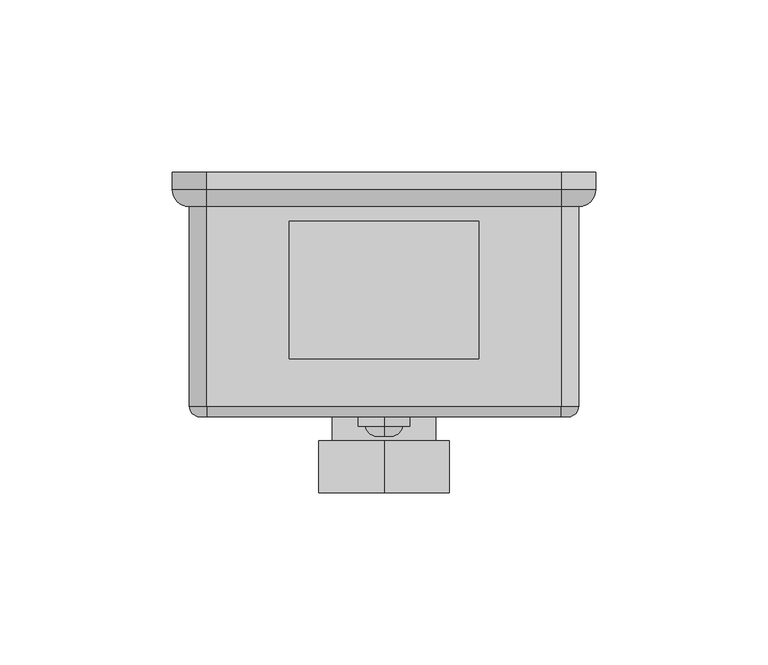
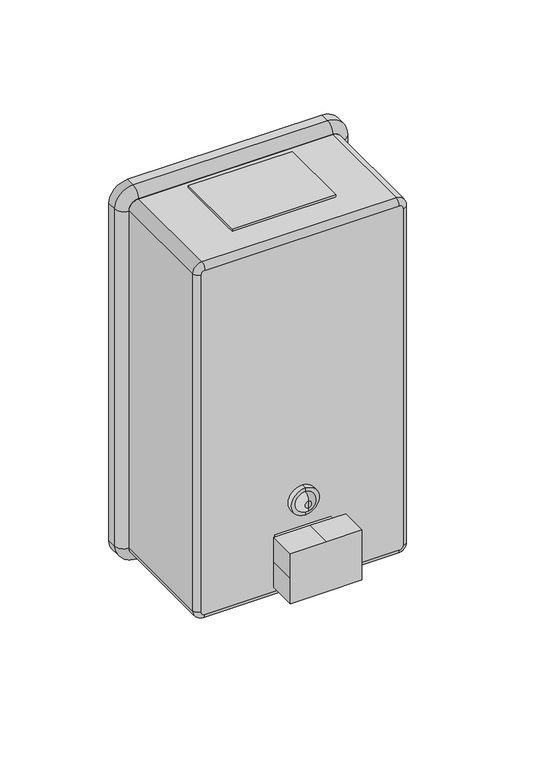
"""IFC4 building model written with IfcOpenShell, lengths in millimetres: proxy geometry, Soap Dispenser_Metlam_Rectangular_Vertical_Button Pump : 123w x 93d x 209h (ML605BS)."""

import ifcopenshell
import ifcopenshell.guid

model = None  # the IFC model being written
_history = None  # IfcOwnerHistory: only IFC2X3 demands one
_inside = {}  # id of a spatial element -> (the spatial element, [elements in it])
_under = {}  # id of a project, library or spatial element -> (it, [spatial elements below it])
_declared = {}  # id of a project -> (the project, [libraries it declares])
_typed = {}  # id of a type object -> (the type object, [elements of that type])
_made_of = {}  # id of a material, layer set ... -> (it, [elements and type objects made of it])


def new_model(schema):
    """Start an empty IFC model of exactly this schema.

    Asked for "IFC4X3", IfcOpenShell would pick the latest addendum, in which some entities
    have other attributes; the version numbers below select the first issue.
    IFC2X3 requires an IfcOwnerHistory on every rooted entity: one is made here for all.
    """
    global model, _history
    if schema == "IFC4X3":
        model = ifcopenshell.file(schema_version=(4, 3, 0, 0))
    else:
        model = ifcopenshell.file(schema=schema)
    _inside.clear()
    _under.clear()
    _declared.clear()
    _typed.clear()
    _made_of.clear()
    _history = None
    if model.schema == "IFC2X3":
        org = make("IfcOrganization", Name="unknown")
        user = make(
            "IfcPersonAndOrganization",
            ThePerson=make("IfcPerson", FamilyName="unknown"),
            TheOrganization=org,
        )
        app = make(
            "IfcApplication",
            ApplicationDeveloper=org,
            Version="unknown",
            ApplicationFullName="unknown",
            ApplicationIdentifier="unknown",
        )
        _history = make(
            "IfcOwnerHistory",
            OwningUser=user,
            OwningApplication=app,
            ChangeAction="ADDED",
            CreationDate=0,
        )
    return model


def make(cls, **values):
    """One entity of the class cls with the attributes given. An attribute that is None is left unset."""
    return model.create_entity(
        cls, **{name: value for name, value in values.items() if value is not None}
    )


def rooted(cls, **values):
    """An entity with a GlobalId (a new one), such as an element, a storey or a relation."""
    return make(cls, GlobalId=ifcopenshell.guid.new(), OwnerHistory=_history, **values)


def si_unit(unit_type, name, prefix=None):
    """IfcSIUnit, for example si_unit("LENGTHUNIT", "METRE", prefix="MILLI")."""
    return make("IfcSIUnit", UnitType=unit_type, Prefix=prefix, Name=name)


def assignment(units):
    """IfcUnitAssignment: the units of a project."""
    return None if units is None else make("IfcUnitAssignment", Units=units)


def point(xyz):
    """IfcCartesianPoint."""
    return None if xyz is None else make("IfcCartesianPoint", Coordinates=xyz)


def direction(xyz):
    """IfcDirection."""
    return None if xyz is None else make("IfcDirection", DirectionRatios=xyz)


def frame(location, z_axis=None, x_axis=None):
    """IfcAxis2Placement3D, a coordinate frame: its origin and axes. An axis left out is left unset."""
    return make(
        "IfcAxis2Placement3D",
        Location=point(location),
        Axis=direction(z_axis),
        RefDirection=direction(x_axis),
    )


def frame_2d(location, x_axis=None):
    """IfcAxis2Placement2D, a coordinate frame in the plane: its origin and x axis."""
    return make(
        "IfcAxis2Placement2D", Location=point(location), RefDirection=direction(x_axis)
    )


def origin():
    """The frame at (0, 0, 0) with its axes left unset."""
    return frame((0.0, 0.0, 0.0))


def place(relative_to, where):
    """IfcLocalPlacement: puts the frame where relative to a parent placement (None: the world)."""
    return make(
        "IfcLocalPlacement", PlacementRelTo=relative_to, RelativePlacement=where
    )


def context(
    kind, dimensions, precision=None, world=None, true_north=None, identifier=None
):
    """IfcGeometricRepresentationContext, for example the 3D "Model" context."""
    return make(
        "IfcGeometricRepresentationContext",
        ContextIdentifier=identifier,
        ContextType=kind,
        CoordinateSpaceDimension=dimensions,
        Precision=precision,
        WorldCoordinateSystem=world,
        TrueNorth=true_north,
    )


def project(units=None, contexts=None):
    """IfcProject with its units and contexts."""
    return rooted(
        "IfcProject",
        Name="project",
        RepresentationContexts=contexts,
        UnitsInContext=assignment(units),
    )


def spatial(cls, under=None, at=None, **own):
    """A site, building, storey or space (cls), placed at a placement, below another one or the project."""
    s = rooted(cls, ObjectPlacement=at, **own)
    if under is not None:
        _under.setdefault(under.id(), (under, []))[1].append(s)
    return s


def polyline(points):
    """IfcPolyline through the points."""
    return make("IfcPolyline", Points=[point(p) for p in points])


def circle_curve(where, radius):
    """IfcCircle in the frame where."""
    return make("IfcCircle", Position=where, Radius=radius)


def ellipse_curve(where, semi_axis1, semi_axis2):
    """IfcEllipse in the frame where."""
    return make(
        "IfcEllipse", Position=where, SemiAxis1=semi_axis1, SemiAxis2=semi_axis2
    )


def trimmed(basis, trim1, trim2, sense, master):
    """IfcTrimmedCurve: the piece of a basis curve between two trims."""
    return make(
        "IfcTrimmedCurve",
        BasisCurve=basis,
        Trim1=trim1,
        Trim2=trim2,
        SenseAgreement=sense,
        MasterRepresentation=master,
    )


def segment(curve, same_sense, transition):
    """IfcCompositeCurveSegment."""
    return make(
        "IfcCompositeCurveSegment",
        Transition=transition,
        SameSense=same_sense,
        ParentCurve=curve,
    )


def composite_curve(segments, self_intersect=None):
    """IfcCompositeCurve: segments joined end to end."""
    return make("IfcCompositeCurve", Segments=segments, SelfIntersect=self_intersect)


def outline(outer, holes=None, kind="AREA"):
    """IfcArbitraryClosedProfileDef: a profile drawn as a closed curve; with holes, ...WithVoids."""
    if holes is None:
        return make("IfcArbitraryClosedProfileDef", ProfileType=kind, OuterCurve=outer)
    return make(
        "IfcArbitraryProfileDefWithVoids",
        ProfileType=kind,
        OuterCurve=outer,
        InnerCurves=holes,
    )


def extrude(swept, where, along, depth):
    """IfcExtrudedAreaSolid: the profile swept, set in the frame where, extruded along a direction by depth."""
    return make(
        "IfcExtrudedAreaSolid",
        SweptArea=swept,
        Position=where,
        ExtrudedDirection=direction(along),
        Depth=depth,
    )


def shape(context_of_items, identifier, shape_type, items):
    """IfcShapeRepresentation: the items that make up one representation, for example the "Body"."""
    return make(
        "IfcShapeRepresentation",
        ContextOfItems=context_of_items,
        RepresentationIdentifier=identifier,
        RepresentationType=shape_type,
        Items=items,
    )


def source(mapping_origin, context_of_items, identifier, shape_type, items):
    """IfcRepresentationMap: a shape defined once, which mapped items show again and again."""
    return make(
        "IfcRepresentationMap",
        MappingOrigin=mapping_origin,
        MappedRepresentation=shape(context_of_items, identifier, shape_type, items),
    )


def transform(
    local_origin,
    x_axis=None,
    y_axis=None,
    z_axis=None,
    scale=None,
    scale2=None,
    scale3=None,
    uniform=True,
):
    """IfcCartesianTransformationOperator3D, or its non-uniform kind. x_axis, y_axis, z_axis: its Axis1, 2, 3."""
    if uniform:
        return make(
            "IfcCartesianTransformationOperator3D",
            Axis1=direction(x_axis),
            Axis2=direction(y_axis),
            LocalOrigin=point(local_origin),
            Scale=scale,
            Axis3=direction(z_axis),
        )
    return make(
        "IfcCartesianTransformationOperator3DnonUniform",
        Axis1=direction(x_axis),
        Axis2=direction(y_axis),
        LocalOrigin=point(local_origin),
        Scale=scale,
        Axis3=direction(z_axis),
        Scale2=scale2,
        Scale3=scale3,
    )


def mapped(mapping_source, mapping_target):
    """IfcMappedItem: shows the shape of a source again, moved by a transform."""
    return make(
        "IfcMappedItem", MappingSource=mapping_source, MappingTarget=mapping_target
    )


def made_of(thing, what):
    """Note that an element or type object is made of a material, layer set ...; save() writes the relation."""
    if what is not None:
        _made_of.setdefault(what.id(), (what, []))[1].append(thing)
    return thing


def element(
    cls,
    number,
    at=None,
    inside=None,
    cuts=None,
    type_object=None,
    material=None,
    context=None,
    identifier="Body",
    shape_type=None,
    held_by="IfcProductDefinitionShape",
    body=None,
    shapes=None,
    **own,
):
    """One element of the class cls, such as IfcWall. Its Tag is "e" and its number.

    at: its placement. inside: the storey or other place that contains it. cuts: it is an
    opening in that element (IfcRelVoidsElement). A single representation is given by context,
    identifier, shape_type and body (its items); several are given by shapes. held_by: the class
    of the entity that holds the representations. save() writes the other relations.
    """
    e = rooted(cls, Tag="e%d" % number, ObjectPlacement=at, **own)
    if body is not None:
        shapes = [shape(context, identifier, shape_type, body)]
    if shapes is not None:
        e.Representation = make(held_by, Representations=shapes)
    if inside is not None:
        _inside.setdefault(inside.id(), (inside, []))[1].append(e)
    if cuts is not None:
        rooted(
            "IfcRelVoidsElement", RelatingBuildingElement=cuts, RelatedOpeningElement=e
        )
    if type_object is not None:
        _typed.setdefault(type_object.id(), (type_object, []))[1].append(e)
    return made_of(e, material)


def aggregate(whole, parts):
    """IfcRelAggregates: a whole, such as a stair, and the parts it consists of."""
    return rooted("IfcRelAggregates", RelatingObject=whole, RelatedObjects=parts)


def save(model, path):
    """Write the relations noted so far, then the file.

    IfcRelAggregates (storeys below a building ...), IfcRelContainedInSpatialStructure (elements
    in a storey), IfcRelDefinesByType, IfcRelAssociatesMaterial and IfcRelDeclares: one each for
    every whole, place, type object, material and project.
    """
    for whole, parts in _under.values():
        aggregate(whole, parts)
    for where, things in _inside.values():
        rooted(
            "IfcRelContainedInSpatialStructure",
            RelatedElements=things,
            RelatingStructure=where,
        )
    for kind, things in _typed.values():
        rooted("IfcRelDefinesByType", RelatedObjects=things, RelatingType=kind)
    for what, things in _made_of.values():
        rooted("IfcRelAssociatesMaterial", RelatedObjects=things, RelatingMaterial=what)
    for by, libraries in _declared.values():
        rooted("IfcRelDeclares", RelatingContext=by, RelatedDefinitions=libraries)
    model.write(path)


def plane_surface(at):
    """IfcPlane: the flat surface through the origin of the frame at, square to its z axis."""
    return make("IfcPlane", Position=at)


def cylinder_surface(at, radius):
    """IfcCylindricalSurface: all points at the distance radius from the z axis of the frame at."""
    return make("IfcCylindricalSurface", Position=at, Radius=radius)


def revolved_surface(curve, axis_point, axis_direction):
    """IfcSurfaceOfRevolution: the curve turned about the line through axis_point along axis_direction."""
    return make(
        "IfcSurfaceOfRevolution",
        SweptCurve=make("IfcArbitraryOpenProfileDef", ProfileType="CURVE", Curve=curve),
        AxisPosition=make("IfcAxis1Placement", Location=point(axis_point), Axis=direction(axis_direction)),
    )


def advanced_brep(points, edges, surfaces, faces):
    """IfcAdvancedBrep: a solid bounded by faces that lie on surfaces and meet in shared edges.

    An edge is (start, end): straight between two places in points (the first is 0);
    or (start, end, curve); or (start, end, curve, False) where it runs against its curve.
    A face is (place in surfaces, loops), or (place, loops, False) where it looks against
    its surface's normal. A loop lists edges by number (the first is 1), with a minus sign
    where the edge is run from its end to its start. The first loop is the outer one.
    """
    corners = [point(p) for p in points]
    vertices = [make("IfcVertexPoint", VertexGeometry=c) for c in corners]
    made = []
    for start, end, *more in edges:
        made.append(
            make(
                "IfcEdgeCurve",
                EdgeStart=vertices[start],
                EdgeEnd=vertices[end],
                EdgeGeometry=more[0] if more else make("IfcPolyline", Points=[corners[start], corners[end]]),
                SameSense=more[1] if len(more) > 1 else True,
            )
        )
    hull = []
    for where, loops, *sense in faces:
        bounds = []
        for j, loop in enumerate(loops):
            ring = [make("IfcOrientedEdge", EdgeElement=made[abs(k) - 1], Orientation=k > 0) for k in loop]
            bounds.append(
                make(
                    "IfcFaceOuterBound" if j == 0 else "IfcFaceBound",
                    Bound=make("IfcEdgeLoop", EdgeList=ring),
                    Orientation=True,
                )
            )
        hull.append(make("IfcAdvancedFace", Bounds=bounds, FaceSurface=surfaces[where], SameSense=sense[0] if sense else True))
    return make("IfcAdvancedBrep", Outer=make("IfcClosedShell", CfsFaces=hull))


def specialty_equipment_37063abb(model_context):
    return source(origin(), model_context, "Body", "SolidModel", [
        advanced_brep(
        [(0.0, -73.6770093, 1347.5), (0.0, -73.6770093, 1362.5), (0.0, -71.0, 1362.5), (0.0, -71.0, 1347.5), (0.0, -73.6770093, 1349.5417196), (0.0, -73.6770093, 1360.4582804), (0.0, -76.68104, 1353.0762788), (0.0, -76.68104, 1356.9237212), (0.0, -76.68104, 1355.0), (0.0, -71.0, 1355.0)],
        [
            (0, 1, circle_curve(frame((0.0, -73.6770093, 1355.0), z_axis=(0.0, 1.0, 0.0), x_axis=(0.0, 0.0, 1.0)), 7.5)),
            (1, 2),
            (2, 3, circle_curve(frame((0.0, -71.0, 1355.0), z_axis=(0.0, -1.0, 0.0), x_axis=(0.0, 0.0, 1.0)), 7.5)),
            (3, 0),
            (1, 0, circle_curve(frame((0.0, -73.6770093, 1355.0), z_axis=(0.0, 1.0, 0.0), x_axis=(0.0, 0.0, 1.0)), 7.5)),
            (3, 2, circle_curve(frame((0.0, -71.0, 1355.0), z_axis=(0.0, -1.0, 0.0), x_axis=(0.0, 0.0, 1.0)), 7.5)),
            (4, 5, circle_curve(frame((0.0, -73.6770093, 1355.0), z_axis=(0.0, 1.0, 0.0), x_axis=(0.0, 0.0, 1.0)), 5.4582804)),
            (5, 1),
            (0, 4),
            (5, 4, circle_curve(frame((0.0, -73.6770093, 1355.0), z_axis=(0.0, 1.0, 0.0), x_axis=(0.0, 0.0, 1.0)), 5.4582804)),
            (6, 7, circle_curve(frame((0.0, -76.68104, 1355.0), z_axis=(0.0, 1.0, 0.0), x_axis=(0.0, 0.0, 1.0)), 1.9237212)),
            (7, 5, circle_curve(frame((0.0, -73.0996336, 1356.9237212), z_axis=(-1.0, 0.0, 0.0), x_axis=(0.0, 1.0, 0.0)), 3.5814064)),
            (4, 6, circle_curve(frame((0.0, -73.0996336, 1353.0762788), z_axis=(-1.0, 0.0, 0.0), x_axis=(0.0, 1.0, 0.0)), 3.5814064)),
            (7, 6, circle_curve(frame((0.0, -76.68104, 1355.0), z_axis=(0.0, 1.0, 0.0), x_axis=(0.0, 0.0, 1.0)), 1.9237212)),
            (8, 7),
            (6, 8),
            (2, 9),
            (9, 3),
        ],
        [
            cylinder_surface(frame((0.0, -76.1933717, 1355.0), z_axis=(0.0, -1.0, 0.0), x_axis=(0.0, 0.0, 1.0)), 7.5),
            plane_surface(frame((0.0, -73.6770093, 1355.0), z_axis=(0.0, -1.0, 0.0), x_axis=(0.0, 0.0, 1.0))),
            revolved_surface(trimmed(ellipse_curve(frame((0.0, -73.0996336, 1356.9237212), z_axis=(1.0, 0.0, 0.0), x_axis=(0.0, 1.0, 0.0)), 3.5814064, 3.5814064), [point((0.0, -73.6770093, 1360.4582804))], [point((0.0, -76.68104, 1356.9237212))], True, "CARTESIAN"), (0.0, -76.1933717, 1355.0), (0.0, -1.0, 0.0)),
            plane_surface(frame((0.0, -76.68104, 1355.0), z_axis=(0.0, -1.0, 0.0), x_axis=(0.0, 0.0, 1.0))),
            plane_surface(frame((0.0, -71.0, 1355.0), z_axis=(0.0, 1.0, 0.0), x_axis=(0.0, 0.0, 1.0))),
        ],
        [
            (0, [[1, 2, 3, 4]]),
            (0, [[5, -4, 6, -2]]),
            (1, [[7, 8, -1, 9]]),
            (1, [[10, -9, -5, -8]]),
            (2, [[11, 12, -7, 13]]),
            (2, [[14, -13, -10, -12]]),
            (3, [[15, -11, 16]]),
            (3, [[-16, -14, -15]]),
            (4, [[-3, 17, 18]]),
            (4, [[-6, -18, -17]]),
        ],
    ),
        advanced_brep(
        [(53.5, -71.0, 1499.0), (51.5, -71.0, 1501.0), (-51.5, -71.0, 1501.0), (-53.5, -71.0, 1499.0), (-53.5, -71.0, 1310.0), (-51.5, -71.0, 1308.0), (51.5, -71.0, 1308.0), (53.5, -71.0, 1310.0), (51.5, -61.0, 1501.0), (53.5, -61.0, 1499.0), (53.5, -61.0, 1310.0), (51.5, -61.0, 1308.0), (-51.5, -61.0, 1308.0), (-53.5, -61.0, 1310.0), (-53.5, -61.0, 1499.0), (-51.5, -61.0, 1501.0), (56.5, -10.0, 1499.0), (56.5, -68.0, 1499.0), (56.5, -68.0, 1310.0), (56.5, -10.0, 1310.0), (51.5, -10.0, 1305.0), (51.5, -68.0, 1305.0), (-51.5, -68.0, 1305.0), (-51.5, -10.0, 1305.0), (-56.5, -10.0, 1310.0), (-56.5, -68.0, 1310.0), (-56.5, -68.0, 1499.0), (-56.5, -10.0, 1499.0), (-51.5, -10.0, 1504.0), (-51.5, -68.0, 1504.0), (51.5, -68.0, 1504.0), (51.5, -10.0, 1504.0), (-51.5, -10.0, 1501.0), (-53.5, -10.0, 1499.0), (-53.5, -10.0, 1310.0), (-51.5, -10.0, 1308.0), (51.5, -10.0, 1308.0), (53.5, -10.0, 1310.0), (53.5, -10.0, 1499.0), (51.5, -10.0, 1501.0)],
        [
            (0, 1, circle_curve(frame((51.5, -71.0, 1499.0), z_axis=(0.0, -1.0, 0.0), x_axis=(0.0, 0.0, 1.0)), 2.0)),
            (1, 2),
            (2, 3, circle_curve(frame((-51.5, -71.0, 1499.0), z_axis=(0.0, -1.0, 0.0), x_axis=(-1.0, 0.0, 0.0)), 2.0)),
            (3, 4),
            (4, 5, circle_curve(frame((-51.5, -71.0, 1310.0), z_axis=(0.0, -1.0, 0.0), x_axis=(0.0, 0.0, -1.0)), 2.0)),
            (5, 6),
            (6, 7, circle_curve(frame((51.5, -71.0, 1310.0), z_axis=(0.0, -1.0, 0.0), x_axis=(1.0, 0.0, 0.0)), 2.0)),
            (7, 0),
            (8, 9, circle_curve(frame((51.5, -61.0, 1499.0), z_axis=(0.0, 1.0, 0.0), x_axis=(0.0, 0.0, 1.0)), 2.0)),
            (9, 10),
            (10, 11, circle_curve(frame((51.5, -61.0, 1310.0), z_axis=(0.0, 1.0, 0.0), x_axis=(1.0, 0.0, 0.0)), 2.0)),
            (11, 12),
            (12, 13, circle_curve(frame((-51.5, -61.0, 1310.0), z_axis=(0.0, 1.0, 0.0), x_axis=(0.0, 0.0, -1.0)), 2.0)),
            (13, 14),
            (14, 15, circle_curve(frame((-51.5, -61.0, 1499.0), z_axis=(0.0, 1.0, 0.0), x_axis=(-1.0, 0.0, 0.0)), 2.0)),
            (15, 8),
            (16, 17),
            (17, 18),
            (18, 19),
            (19, 16),
            (20, 21),
            (21, 22),
            (22, 23),
            (23, 20),
            (24, 25),
            (25, 26),
            (26, 27),
            (27, 24),
            (28, 29),
            (29, 30),
            (30, 31),
            (31, 28),
            (16, 31, circle_curve(frame((51.5, -10.0, 1499.0), z_axis=(0.0, -1.0, 0.0), x_axis=(0.0, 0.0, 1.0)), 5.0)),
            (30, 17, circle_curve(frame((51.5, -68.0, 1499.0), z_axis=(0.0, 1.0, 0.0), x_axis=(0.0, 0.0, 1.0)), 5.0)),
            (18, 21, circle_curve(frame((51.5, -68.0, 1310.0), z_axis=(0.0, 1.0, 0.0), x_axis=(1.0, 0.0, 0.0)), 5.0)),
            (20, 19, circle_curve(frame((51.5, -10.0, 1310.0), z_axis=(0.0, -1.0, 0.0), x_axis=(1.0, 0.0, 0.0)), 5.0)),
            (22, 25, circle_curve(frame((-51.5, -68.0, 1310.0), z_axis=(0.0, 1.0, 0.0), x_axis=(0.0, 0.0, -1.0)), 5.0)),
            (24, 23, circle_curve(frame((-51.5, -10.0, 1310.0), z_axis=(0.0, -1.0, 0.0), x_axis=(0.0, 0.0, -1.0)), 5.0)),
            (26, 29, circle_curve(frame((-51.5, -68.0, 1499.0), z_axis=(0.0, 1.0, 0.0), x_axis=(-1.0, 0.0, 0.0)), 5.0)),
            (28, 27, circle_curve(frame((-51.5, -10.0, 1499.0), z_axis=(0.0, -1.0, 0.0), x_axis=(-1.0, 0.0, 0.0)), 5.0)),
            (32, 33, circle_curve(frame((-51.5, -10.0, 1499.0), z_axis=(0.0, -1.0, 0.0), x_axis=(-1.0, 0.0, 0.0)), 2.0)),
            (33, 34),
            (34, 35, circle_curve(frame((-51.5, -10.0, 1310.0), z_axis=(0.0, -1.0, 0.0), x_axis=(0.0, 0.0, -1.0)), 2.0)),
            (35, 36),
            (36, 37, circle_curve(frame((51.5, -10.0, 1310.0), z_axis=(0.0, -1.0, 0.0), x_axis=(1.0, 0.0, 0.0)), 2.0)),
            (37, 38),
            (38, 39, circle_curve(frame((51.5, -10.0, 1499.0), z_axis=(0.0, -1.0, 0.0), x_axis=(0.0, 0.0, 1.0)), 2.0)),
            (39, 32),
            (38, 9),
            (8, 39),
            (30, 1, circle_curve(frame((51.5, -68.0, 1501.0), z_axis=(1.0, 0.0, 0.0), x_axis=(0.0, 0.0, 1.0)), 3.0)),
            (0, 17, circle_curve(frame((53.5, -68.0, 1499.0), z_axis=(0.0, 0.0, 1.0), x_axis=(1.0, 0.0, 0.0)), 3.0)),
            (37, 10),
            (7, 18, circle_curve(frame((53.5, -68.0, 1310.0), z_axis=(0.0, 0.0, 1.0), x_axis=(1.0, 0.0, 0.0)), 3.0)),
            (36, 11),
            (6, 21, circle_curve(frame((51.5, -68.0, 1308.0), z_axis=(1.0, 0.0, 0.0), x_axis=(0.0, 0.0, -1.0)), 3.0)),
            (35, 12),
            (5, 22, circle_curve(frame((-51.5, -68.0, 1308.0), z_axis=(1.0, 0.0, 0.0), x_axis=(0.0, 0.0, -1.0)), 3.0)),
            (34, 13),
            (4, 25, circle_curve(frame((-53.5, -68.0, 1310.0), z_axis=(0.0, 0.0, -1.0), x_axis=(-1.0, 0.0, 0.0)), 3.0)),
            (33, 14),
            (3, 26, circle_curve(frame((-53.5, -68.0, 1499.0), z_axis=(0.0, 0.0, -1.0), x_axis=(-1.0, 0.0, 0.0)), 3.0)),
            (32, 15),
            (2, 29, circle_curve(frame((-51.5, -68.0, 1501.0), z_axis=(-1.0, 0.0, 0.0), x_axis=(0.0, 0.0, 1.0)), 3.0)),
        ],
        [
            plane_surface(frame((-49.5, -71.0, 1499.0), z_axis=(0.0, -1.0, 0.0), x_axis=(0.0, 0.0, 1.0))),
            plane_surface(frame((-49.5, -61.0, 1499.0), z_axis=(0.0, 1.0, 0.0), x_axis=(0.0, 0.0, -1.0))),
            plane_surface(frame((56.5, -68.0, 1499.0), z_axis=(1.0, 0.0, 0.0), x_axis=(0.0, 0.0, -1.0))),
            plane_surface(frame((51.5, -68.0, 1305.0), z_axis=(0.0, 0.0, -1.0), x_axis=(-1.0, 0.0, 0.0))),
            plane_surface(frame((-56.5, -68.0, 1310.0), z_axis=(-1.0, 0.0, 0.0), x_axis=(0.0, 0.0, 1.0))),
            plane_surface(frame((-51.5, -68.0, 1504.0), z_axis=(0.0, 0.0, 1.0), x_axis=(1.0, 0.0, 0.0))),
            cylinder_surface(frame((51.5, -10.0, 1499.0), z_axis=(0.0, 1.0, 0.0), x_axis=(0.0, 0.0, 1.0)), 5.0),
            cylinder_surface(frame((51.5, -10.0, 1310.0), z_axis=(0.0, 1.0, 0.0), x_axis=(1.0, 0.0, 0.0)), 5.0),
            cylinder_surface(frame((-51.5, -10.0, 1310.0), z_axis=(0.0, 1.0, 0.0), x_axis=(0.0, 0.0, -1.0)), 5.0),
            cylinder_surface(frame((-51.5, -10.0, 1499.0), z_axis=(0.0, 1.0, 0.0), x_axis=(-1.0, 0.0, 0.0)), 5.0),
            plane_surface(frame((-51.5, -10.0, 1499.0), z_axis=(0.0, 1.0, 0.0), x_axis=(-1.0, 0.0, 0.0))),
            revolved_surface(polyline([(51.5, -10.0, 1501.0), (51.5, -61.0, 1501.0)]), (51.5, -10.0, 1499.0), (0.0, 1.0, 0.0)),
            revolved_surface(trimmed(ellipse_curve(frame((51.5, -68.0, 1501.0), z_axis=(-1.0, 0.0, 0.0), x_axis=(0.0, 0.0, 1.0)), 3.0, 3.0), [point((51.5, -71.0, 1501.0))], [point((51.5, -68.0, 1504.0))], True, "CARTESIAN"), (51.5, -10.0, 1499.0), (0.0, 1.0, 0.0)),
            plane_surface(frame((53.5, -10.0, 1499.0), z_axis=(-1.0, 0.0, 0.0), x_axis=(0.0, 0.0, -1.0))),
            cylinder_surface(frame((53.5, -68.0, 1499.0), z_axis=(0.0, 0.0, 1.0), x_axis=(1.0, 0.0, 0.0)), 3.0),
            revolved_surface(polyline([(53.5, -10.0, 1310.0), (53.5, -61.0, 1310.0)]), (51.5, -10.0, 1310.0), (0.0, 1.0, 0.0)),
            revolved_surface(trimmed(ellipse_curve(frame((53.5, -68.0, 1310.0), z_axis=(0.0, 0.0, 1.0), x_axis=(1.0, 0.0, 0.0)), 3.0, 3.0), [point((53.5, -71.0, 1310.0))], [point((56.5, -68.0, 1310.0))], True, "CARTESIAN"), (51.5, -10.0, 1310.0), (0.0, 1.0, 0.0)),
            plane_surface(frame((51.5, -10.0, 1308.0), z_axis=(0.0, 0.0, 1.0), x_axis=(-1.0, 0.0, 0.0))),
            cylinder_surface(frame((51.5, -68.0, 1308.0), z_axis=(1.0, 0.0, 0.0), x_axis=(0.0, 0.0, -1.0)), 3.0),
            revolved_surface(polyline([(-51.5, -10.0, 1308.0), (-51.5, -61.0, 1308.0)]), (-51.5, -10.0, 1310.0), (0.0, 1.0, 0.0)),
            revolved_surface(trimmed(ellipse_curve(frame((-51.5, -68.0, 1308.0), z_axis=(1.0, 0.0, 0.0), x_axis=(0.0, 0.0, -1.0)), 3.0, 3.0), [point((-51.5, -71.0, 1308.0))], [point((-51.5, -68.0, 1305.0))], True, "CARTESIAN"), (-51.5, -10.0, 1310.0), (0.0, 1.0, 0.0)),
            plane_surface(frame((-53.5, -10.0, 1310.0), z_axis=(1.0, 0.0, 0.0), x_axis=(0.0, 0.0, 1.0))),
            cylinder_surface(frame((-53.5, -68.0, 1310.0), z_axis=(0.0, 0.0, -1.0), x_axis=(-1.0, 0.0, 0.0)), 3.0),
            revolved_surface(polyline([(-53.5, -10.0, 1499.0), (-53.5, -61.0, 1499.0)]), (-51.5, -10.0, 1499.0), (0.0, 1.0, 0.0)),
            revolved_surface(trimmed(ellipse_curve(frame((-53.5, -68.0, 1499.0), z_axis=(0.0, 0.0, -1.0), x_axis=(-1.0, 0.0, 0.0)), 3.0, 3.0), [point((-53.5, -71.0, 1499.0))], [point((-56.5, -68.0, 1499.0))], True, "CARTESIAN"), (-51.5, -10.0, 1499.0), (0.0, 1.0, 0.0)),
            plane_surface(frame((-51.5, -10.0, 1501.0), z_axis=(0.0, 0.0, -1.0), x_axis=(1.0, 0.0, 0.0))),
            cylinder_surface(frame((-51.5, -68.0, 1501.0), z_axis=(-1.0, 0.0, 0.0), x_axis=(0.0, 0.0, 1.0)), 3.0),
        ],
        [
            (0, [[1, 2, 3, 4, 5, 6, 7, 8]]),
            (1, [[9, 10, 11, 12, 13, 14, 15, 16]]),
            (2, [[17, 18, 19, 20]]),
            (3, [[21, 22, 23, 24]]),
            (4, [[25, 26, 27, 28]]),
            (5, [[29, 30, 31, 32]]),
            (6, [[-17, 33, -31, 34]]),
            (7, [[-19, 35, -21, 36]]),
            (8, [[-23, 37, -25, 38]]),
            (9, [[-27, 39, -29, 40]]),
            (10, [[-20, -36, -24, -38, -28, -40, -32, -33], [41, 42, 43, 44, 45, 46, 47, 48]]),
            (11, [[-47, 49, -9, 50]]),
            (12, [[-34, 51, -1, 52]]),
            (13, [[-46, 53, -10, -49]]),
            (14, [[-18, -52, -8, 54]]),
            (15, [[-45, 55, -11, -53]]),
            (16, [[-35, -54, -7, 56]]),
            (17, [[-44, 57, -12, -55]]),
            (18, [[-22, -56, -6, 58]]),
            (19, [[-43, 59, -13, -57]]),
            (20, [[-37, -58, -5, 60]]),
            (21, [[-42, 61, -14, -59]]),
            (22, [[-26, -60, -4, 62]]),
            (23, [[-41, 63, -15, -61]]),
            (24, [[-39, -62, -3, 64]]),
            (25, [[-48, -50, -16, -63]]),
            (26, [[-30, -64, -2, -51]]),
        ],
    ),
        extrude(outline(composite_curve([segment(trimmed(circle_curve(frame_2d((0.0, -85.5)), 2.0), [point((2.0, -85.5))], [point((-2.0, -85.5))], False, "CARTESIAN"), True, "CONTINUOUS"), segment(trimmed(circle_curve(frame_2d((0.0, -85.5)), 2.0), [point((-2.0, -85.5))], [point((2.0, -85.5))], False, "CARTESIAN"), True, "CONTINUOUS")], self_intersect=False)), frame((0.0, 0.0, 1313.0), z_axis=(0.0, 0.0, 1.0), x_axis=(1.0, 0.0, 0.0)), (0.0, 0.0, 1.0), 3.0),
        extrude(outline(polyline([(15.0, -78.0), (-15.0, -78.0), (-15.0, -71.0), (15.0, -71.0), (15.0, -78.0)])), frame((0.0, 0.0, 1320.0), z_axis=(0.0, 0.0, 1.0), x_axis=(1.0, 0.0, 0.0)), (0.0, 0.0, 1.0), 20.0),
        extrude(outline(polyline([(1344.0, 0.0), (1344.0, -19.0), (1330.0, -19.0), (1316.0, -19.0), (1316.0, 0.0), (1316.0, 19.0), (1330.0, 19.0), (1344.0, 19.0), (1344.0, 0.0)])), frame((0.0, -93.0, 0.0), z_axis=(0.0, 1.0, 0.0), x_axis=(0.0, 0.0, 1.0)), (0.0, 0.0, 1.0), 15.0),
        extrude(outline(composite_curve([segment(trimmed(circle_curve(frame_2d((1499.0, 51.5)), 5.0), [point((1499.0, 56.5))], [point((1504.0, 51.5))], False, "CARTESIAN"), True, "CONTINUOUS"), segment(polyline([(1504.0, 51.5), (1504.0, -51.5)]), True, "CONTINUOUS"), segment(trimmed(circle_curve(frame_2d((1499.0, -51.5)), 5.0), [point((1504.0, -51.5))], [point((1499.0, -56.5))], False, "CARTESIAN"), True, "CONTINUOUS"), segment(polyline([(1499.0, -56.5), (1310.0, -56.5)]), True, "CONTINUOUS"), segment(trimmed(circle_curve(frame_2d((1310.0, -51.5)), 5.0), [point((1310.0, -56.5))], [point((1305.0, -51.5))], False, "CARTESIAN"), True, "CONTINUOUS"), segment(polyline([(1305.0, -51.5), (1305.0, 51.5)]), True, "CONTINUOUS"), segment(trimmed(circle_curve(frame_2d((1310.0, 51.5)), 5.0), [point((1305.0, 51.5))], [point((1310.0, 56.5))], False, "CARTESIAN"), True, "CONTINUOUS"), segment(polyline([(1310.0, 56.5), (1499.0, 56.5)]), True, "CONTINUOUS")], self_intersect=False)), frame((0.0, -10.0, 0.0), z_axis=(0.0, 1.0, 0.0), x_axis=(0.0, 0.0, 1.0)), (0.0, 0.0, 1.0), 10.0),
        advanced_brep(
        [(61.5, 0.0, 1499.0), (61.5, -5.0, 1499.0), (61.5, -5.0, 1310.0), (61.5, 0.0, 1310.0), (56.5, -10.0, 1499.0), (56.5, 0.0, 1499.0), (56.5, 0.0, 1310.0), (56.5, -10.0, 1310.0), (51.5, 0.0, 1300.0), (51.5, -5.0, 1300.0), (-51.5, -5.0, 1300.0), (-51.5, 0.0, 1300.0), (51.5, -10.0, 1305.0), (51.5, 0.0, 1305.0), (-51.5, 0.0, 1305.0), (-51.5, -10.0, 1305.0), (-61.5, 0.0, 1310.0), (-61.5, -5.0, 1310.0), (-61.5, -5.0, 1499.0), (-61.5, 0.0, 1499.0), (-56.5, -10.0, 1310.0), (-56.5, 0.0, 1310.0), (-56.5, 0.0, 1499.0), (-56.5, -10.0, 1499.0), (-51.5, 0.0, 1509.0), (-51.5, -5.0, 1509.0), (51.5, -5.0, 1509.0), (51.5, 0.0, 1509.0), (-51.5, -10.0, 1504.0), (-51.5, 0.0, 1504.0), (51.5, 0.0, 1504.0), (51.5, -10.0, 1504.0)],
        [
            (0, 1),
            (1, 2),
            (2, 3),
            (3, 0),
            (4, 5),
            (5, 6),
            (6, 7),
            (7, 4),
            (1, 4, circle_curve(frame((56.5, -5.0, 1499.0), z_axis=(0.0, 0.0, -1.0), x_axis=(1.0, 0.0, 0.0)), 5.0)),
            (7, 2, circle_curve(frame((56.5, -5.0, 1310.0), z_axis=(0.0, 0.0, 1.0), x_axis=(1.0, 0.0, 0.0)), 5.0)),
            (8, 9),
            (9, 10),
            (10, 11),
            (11, 8),
            (12, 13),
            (13, 14),
            (14, 15),
            (15, 12),
            (9, 12, circle_curve(frame((51.5, -5.0, 1305.0), z_axis=(-1.0, 0.0, 0.0), x_axis=(0.0, 0.0, -1.0)), 5.0)),
            (15, 10, circle_curve(frame((-51.5, -5.0, 1305.0), z_axis=(1.0, 0.0, 0.0), x_axis=(0.0, 0.0, -1.0)), 5.0)),
            (16, 17),
            (17, 18),
            (18, 19),
            (19, 16),
            (20, 21),
            (21, 22),
            (22, 23),
            (23, 20),
            (17, 20, circle_curve(frame((-56.5, -5.0, 1310.0), z_axis=(0.0, 0.0, 1.0), x_axis=(-1.0, 0.0, 0.0)), 5.0)),
            (23, 18, circle_curve(frame((-56.5, -5.0, 1499.0), z_axis=(0.0, 0.0, -1.0), x_axis=(-1.0, 0.0, 0.0)), 5.0)),
            (24, 25),
            (25, 26),
            (26, 27),
            (27, 24),
            (28, 29),
            (29, 30),
            (30, 31),
            (31, 28),
            (25, 28, circle_curve(frame((-51.5, -5.0, 1504.0), z_axis=(1.0, 0.0, 0.0), x_axis=(0.0, 0.0, 1.0)), 5.0)),
            (31, 26, circle_curve(frame((51.5, -5.0, 1504.0), z_axis=(-1.0, 0.0, 0.0), x_axis=(0.0, 0.0, 1.0)), 5.0)),
            (0, 27, circle_curve(frame((51.5, 0.0, 1499.0), z_axis=(0.0, -1.0, 0.0), x_axis=(0.0, 0.0, 1.0)), 10.0)),
            (26, 1, circle_curve(frame((51.5, -5.0, 1499.0), z_axis=(0.0, 1.0, 0.0), x_axis=(0.0, 0.0, 1.0)), 10.0)),
            (4, 31, circle_curve(frame((51.5, -10.0, 1499.0), z_axis=(0.0, -1.0, 0.0), x_axis=(0.0, 0.0, 1.0)), 5.0)),
            (30, 5, circle_curve(frame((51.5, 0.0, 1499.0), z_axis=(0.0, 1.0, 0.0), x_axis=(0.0, 0.0, 1.0)), 5.0)),
            (8, 3, circle_curve(frame((51.5, 0.0, 1310.0), z_axis=(0.0, -1.0, 0.0), x_axis=(1.0, 0.0, 0.0)), 10.0)),
            (2, 9, circle_curve(frame((51.5, -5.0, 1310.0), z_axis=(0.0, 1.0, 0.0), x_axis=(1.0, 0.0, 0.0)), 10.0)),
            (12, 7, circle_curve(frame((51.5, -10.0, 1310.0), z_axis=(0.0, -1.0, 0.0), x_axis=(1.0, 0.0, 0.0)), 5.0)),
            (6, 13, circle_curve(frame((51.5, 0.0, 1310.0), z_axis=(0.0, 1.0, 0.0), x_axis=(1.0, 0.0, 0.0)), 5.0)),
            (16, 11, circle_curve(frame((-51.5, 0.0, 1310.0), z_axis=(0.0, -1.0, 0.0), x_axis=(0.0, 0.0, -1.0)), 10.0)),
            (10, 17, circle_curve(frame((-51.5, -5.0, 1310.0), z_axis=(0.0, 1.0, 0.0), x_axis=(0.0, 0.0, -1.0)), 10.0)),
            (20, 15, circle_curve(frame((-51.5, -10.0, 1310.0), z_axis=(0.0, -1.0, 0.0), x_axis=(0.0, 0.0, -1.0)), 5.0)),
            (14, 21, circle_curve(frame((-51.5, 0.0, 1310.0), z_axis=(0.0, 1.0, 0.0), x_axis=(0.0, 0.0, -1.0)), 5.0)),
            (24, 19, circle_curve(frame((-51.5, 0.0, 1499.0), z_axis=(0.0, -1.0, 0.0), x_axis=(-1.0, 0.0, 0.0)), 10.0)),
            (18, 25, circle_curve(frame((-51.5, -5.0, 1499.0), z_axis=(0.0, 1.0, 0.0), x_axis=(-1.0, 0.0, 0.0)), 10.0)),
            (29, 22, circle_curve(frame((-51.5, 0.0, 1499.0), z_axis=(0.0, -1.0, 0.0), x_axis=(-1.0, 0.0, 0.0)), 5.0)),
            (28, 23, circle_curve(frame((-51.5, -10.0, 1499.0), z_axis=(0.0, -1.0, 0.0), x_axis=(-1.0, 0.0, 0.0)), 5.0)),
        ],
        [
            plane_surface(frame((61.5, -5.0, 1499.0), z_axis=(1.0, 0.0, 0.0), x_axis=(0.0, 0.0, -1.0))),
            plane_surface(frame((56.5, 0.0, 1499.0), z_axis=(-1.0, 0.0, 0.0), x_axis=(0.0, 0.0, -1.0))),
            cylinder_surface(frame((56.5, -5.0, 1499.0), z_axis=(0.0, 0.0, 1.0), x_axis=(1.0, 0.0, 0.0)), 5.0),
            plane_surface(frame((51.5, -5.0, 1300.0), z_axis=(0.0, 0.0, -1.0), x_axis=(-1.0, 0.0, 0.0))),
            plane_surface(frame((51.5, 0.0, 1305.0), z_axis=(0.0, 0.0, 1.0), x_axis=(-1.0, 0.0, 0.0))),
            cylinder_surface(frame((51.5, -5.0, 1305.0), z_axis=(1.0, 0.0, 0.0), x_axis=(0.0, 0.0, -1.0)), 5.0),
            plane_surface(frame((-61.5, -5.0, 1310.0), z_axis=(-1.0, 0.0, 0.0), x_axis=(0.0, 0.0, 1.0))),
            plane_surface(frame((-56.5, 0.0, 1310.0), z_axis=(1.0, 0.0, 0.0), x_axis=(0.0, 0.0, 1.0))),
            cylinder_surface(frame((-56.5, -5.0, 1310.0), z_axis=(0.0, 0.0, -1.0), x_axis=(-1.0, 0.0, 0.0)), 5.0),
            plane_surface(frame((-51.5, -5.0, 1509.0), z_axis=(0.0, 0.0, 1.0), x_axis=(1.0, 0.0, 0.0))),
            plane_surface(frame((-51.5, 0.0, 1504.0), z_axis=(0.0, 0.0, -1.0), x_axis=(1.0, 0.0, 0.0))),
            cylinder_surface(frame((-51.5, -5.0, 1504.0), z_axis=(-1.0, 0.0, 0.0), x_axis=(0.0, 0.0, 1.0)), 5.0),
            cylinder_surface(frame((51.5, 0.0, 1499.0), z_axis=(0.0, 1.0, 0.0), x_axis=(0.0, 0.0, 1.0)), 10.0),
            revolved_surface(polyline([(51.5, 0.0, 1504.0), (51.5, -10.0, 1504.0)]), (51.5, 0.0, 1499.0), (0.0, 1.0, 0.0)),
            revolved_surface(trimmed(ellipse_curve(frame((51.5, -5.0, 1504.0), z_axis=(-1.0, 0.0, 0.0), x_axis=(0.0, 0.0, 1.0)), 5.0, 5.0), [point((51.5, -10.0, 1504.0))], [point((51.5, -5.0, 1509.0))], True, "CARTESIAN"), (51.5, 0.0, 1499.0), (0.0, 1.0, 0.0)),
            cylinder_surface(frame((51.5, 0.0, 1310.0), z_axis=(0.0, 1.0, 0.0), x_axis=(1.0, 0.0, 0.0)), 10.0),
            revolved_surface(polyline([(56.5, 0.0, 1310.0), (56.5, -10.0, 1310.0)]), (51.5, 0.0, 1310.0), (0.0, 1.0, 0.0)),
            revolved_surface(trimmed(ellipse_curve(frame((56.5, -5.0, 1310.0), z_axis=(0.0, 0.0, 1.0), x_axis=(1.0, 0.0, 0.0)), 5.0, 5.0), [point((56.5, -10.0, 1310.0))], [point((61.5, -5.0, 1310.0))], True, "CARTESIAN"), (51.5, 0.0, 1310.0), (0.0, 1.0, 0.0)),
            cylinder_surface(frame((-51.5, 0.0, 1310.0), z_axis=(0.0, 1.0, 0.0), x_axis=(0.0, 0.0, -1.0)), 10.0),
            revolved_surface(polyline([(-51.5, 0.0, 1305.0), (-51.5, -10.0, 1305.0)]), (-51.5, 0.0, 1310.0), (0.0, 1.0, 0.0)),
            revolved_surface(trimmed(ellipse_curve(frame((-51.5, -5.0, 1305.0), z_axis=(1.0, 0.0, 0.0), x_axis=(0.0, 0.0, -1.0)), 5.0, 5.0), [point((-51.5, -10.0, 1305.0))], [point((-51.5, -5.0, 1300.0))], True, "CARTESIAN"), (-51.5, 0.0, 1310.0), (0.0, 1.0, 0.0)),
            cylinder_surface(frame((-51.5, 0.0, 1499.0), z_axis=(0.0, 1.0, 0.0), x_axis=(-1.0, 0.0, 0.0)), 10.0),
            plane_surface(frame((-51.5, 0.0, 1499.0), z_axis=(0.0, 1.0, 0.0), x_axis=(-1.0, 0.0, 0.0))),
            revolved_surface(polyline([(-56.5, 0.0, 1499.0), (-56.5, -10.0, 1499.0)]), (-51.5, 0.0, 1499.0), (0.0, 1.0, 0.0)),
            revolved_surface(trimmed(ellipse_curve(frame((-56.5, -5.0, 1499.0), z_axis=(0.0, 0.0, -1.0), x_axis=(-1.0, 0.0, 0.0)), 5.0, 5.0), [point((-56.5, -10.0, 1499.0))], [point((-61.5, -5.0, 1499.0))], True, "CARTESIAN"), (-51.5, 0.0, 1499.0), (0.0, 1.0, 0.0)),
        ],
        [
            (0, [[1, 2, 3, 4]]),
            (1, [[5, 6, 7, 8]]),
            (2, [[9, -8, 10, -2]]),
            (3, [[11, 12, 13, 14]]),
            (4, [[15, 16, 17, 18]]),
            (5, [[19, -18, 20, -12]]),
            (6, [[21, 22, 23, 24]]),
            (7, [[25, 26, 27, 28]]),
            (8, [[29, -28, 30, -22]]),
            (9, [[31, 32, 33, 34]]),
            (10, [[35, 36, 37, 38]]),
            (11, [[39, -38, 40, -32]]),
            (12, [[41, -33, 42, -1]]),
            (13, [[43, -37, 44, -5]]),
            (14, [[-42, -40, -43, -9]]),
            (15, [[45, -3, 46, -11]]),
            (16, [[47, -7, 48, -15]]),
            (17, [[-46, -10, -47, -19]]),
            (18, [[49, -13, 50, -21]]),
            (19, [[51, -17, 52, -25]]),
            (20, [[-50, -20, -51, -29]]),
            (21, [[53, -23, 54, -31]]),
            (22, [[-14, -49, -24, -53, -34, -41, -4, -45], [55, -26, -52, -16, -48, -6, -44, -36]]),
            (23, [[56, -27, -55, -35]]),
            (24, [[-54, -30, -56, -39]]),
        ],
    ),
        extrude(outline(polyline([(27.5, -14.1991045), (27.5, -54.1991045), (-27.5, -54.1991045), (-27.5, -14.1991045), (27.5, -14.1991045)])), frame((0.0, 0.0, 1504.0), z_axis=(0.0, 0.0, 1.0), x_axis=(1.0, 0.0, 0.0)), (0.0, 0.0, 1.0), 1.6),
    ])


if __name__ == "__main__":
    model = new_model("IFC4")
    model_context = context("Model", 3, world=origin())
    ifc_project = project(units=[si_unit("LENGTHUNIT", "METRE", prefix="MILLI")], contexts=[model_context])
    site = spatial("IfcSite", under=ifc_project)
    building = spatial("IfcBuilding", under=site)
    placement = place(None, origin())
    specialty_equipment_shape = specialty_equipment_37063abb(model_context)
    element("IfcBuildingElementProxy", 1, Name="Soap Dispenser_Metlam_Rectangular_Vertical_Button Pump : 123w x 93d x 209h (ML605BS)", ObjectType="Soap Dispenser_Metlam_Rectangular_Vertical_Button Pump : 123w x 93d x 209h (ML605BS)", at=placement, inside=building, context=model_context, shape_type="MappedRepresentation", body=[
        mapped(specialty_equipment_shape, transform((0.0, 0.0, 0.0), x_axis=(1.0, 0.0, 0.0), y_axis=(0.0, 1.0, 0.0), z_axis=(0.0, 0.0, 1.0))),
    ])
    save(model, "model.ifc")
